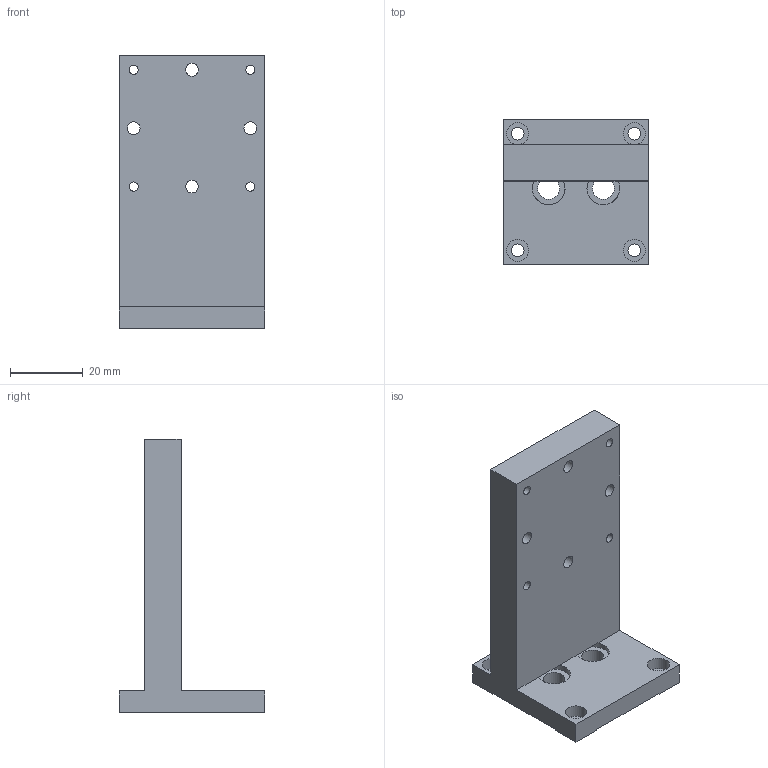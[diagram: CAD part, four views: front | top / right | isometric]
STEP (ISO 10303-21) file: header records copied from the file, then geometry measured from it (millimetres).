
FILE_DESCRIPTION( ( 'STEP AP203' ), '1' );
FILE_NAME( '//Srg14/OST事業部/技術G/Topsolid/ASSY/AS47-2/3D_AS47-2/3D_AS47-2+090219.step', '2009-02-19T01:22:25', ( ' ' ), ( ' ' ), 'XStep 1.0', ' ', ' ' );
FILE_SCHEMA( ( 'CONFIG_CONTROL_DESIGN' ) );
Length unit declared in the file: millimetre
Products named in the file (1): 1
Bounding box: 40 x 40 x 75 mm (x, y, z)
Volume: 35211.8 mm3; surface area: 12544.2 mm2
Topology: 1 solids, 5 shells, 66 faces, 168 edges, 110 vertices
Faces by surface type: plane 34, cylinder 28, cone 4
Full cylindrical faces by diameter (mm): 2.5 x12, 3.5 x8, 6 x6, 9 x2
Entity records: 1802 total; most frequent: DIRECTION 308, CARTESIAN_POINT 285, ORIENTED_EDGE 240, EDGE_LOOP 124, AXIS2_PLACEMENT_3D 121, EDGE_CURVE 120, VERTEX_POINT 98, FACE_OUTER_BOUND 94
